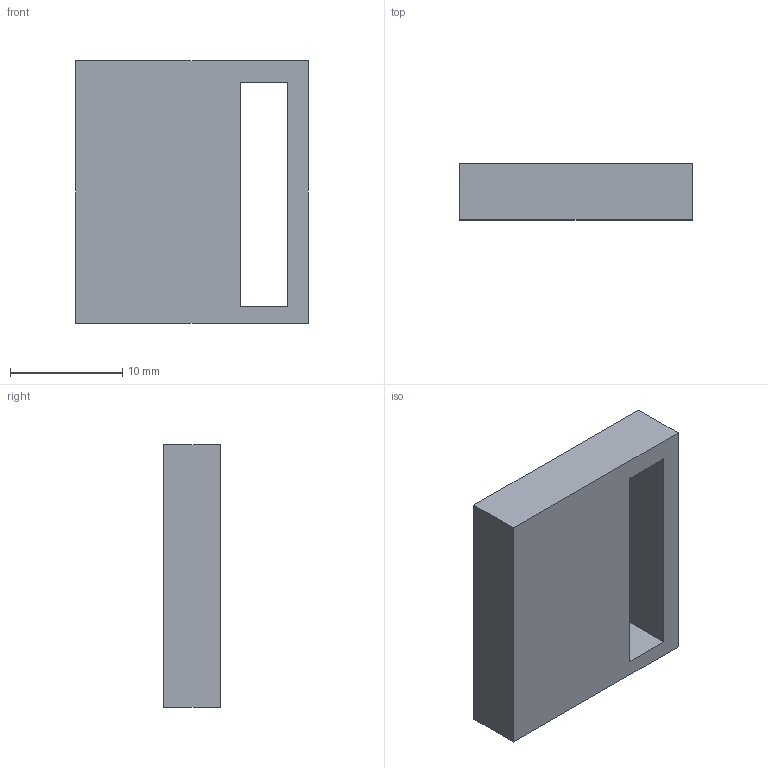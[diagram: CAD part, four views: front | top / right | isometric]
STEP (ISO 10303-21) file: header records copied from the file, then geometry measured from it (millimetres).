
FILE_DESCRIPTION(/* description */ ('STEP AP242 Edition 2','CAx-IF Rec.Pracs.---Representation and Presentation of Product Manufacturing Information (PMI)---4.0---2014-10-13','CAx-IF Rec.Pracs.---3D Tessellated Geometry---0.4---2014-09-14','2;1','CAx-IF Rec.Pracs.---User Defined Attributes---1.5---2016-08-15'),/* implementation_level */ '2;1');
FILE_NAME(/* name */ '697f858f4ebd30078a587aef',/* time_stamp */ '2026-02-01T16:55:43Z',/* author */ (''),/* organization */ (''),/* preprocessor_version */ 'ST-DEVELOPER v20',/* originating_system */ 'ONSHAPE BY PTC INC, 1.210',/* authorisation */ ' ');
FILE_SCHEMA (('AP242_MANAGED_MODEL_BASED_3D_ENGINEERING_MIM_LF { 1 0 10303 442 3 1 4 }'));
Length unit declared in the file: centimetre
Products named in the file (1): Part 1
Bounding box: 20.77 x 5 x 23.38 mm (x, y, z)
Volume: 1264.9 mm3; surface area: 1606.9 mm2
Topology: 1 solids, 1 shells, 16 faces, 36 edges, 24 vertices
Faces by surface type: plane 14, cylinder 2
Full cylindrical faces by diameter (mm): 2.326 x1, 2.49 x1
Entity records: 460 total; most frequent: CARTESIAN_POINT 75, DIRECTION 72, ORIENTED_EDGE 68, EDGE_CURVE 34, LINE 30, VECTOR 30, VERTEX_POINT 24, EDGE_LOOP 22
